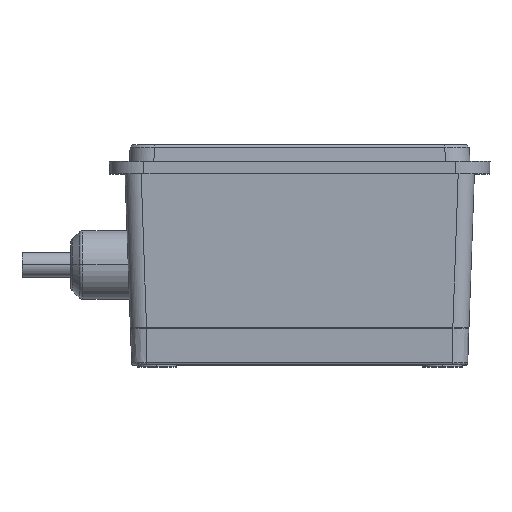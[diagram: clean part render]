
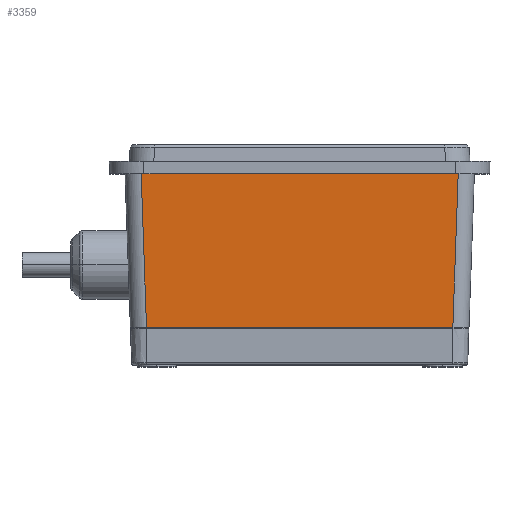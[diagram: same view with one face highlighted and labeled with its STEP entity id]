
A CAD part, top view. The second image highlights one B-rep face of the part: STEP entity #3359.
In plain terms, the highlighted planar face has unit normal (0, -0.035, 0.999).
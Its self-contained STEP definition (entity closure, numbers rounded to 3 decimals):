
#43 = DIRECTION ( 'NONE',  ( -0.035, 0.999, 0.035 ) ) ;
#743 = CARTESIAN_POINT ( 'NONE',  ( -31.305, 7.7, 29.653 ) ) ;
#1165 = LINE ( 'NONE', #3656, #3683 ) ;
#1256 = LINE ( 'NONE', #5735, #2442 ) ;
#1543 = FACE_OUTER_BOUND ( 'NONE', #3301, .T. ) ;
#1564 = EDGE_CURVE ( 'NONE', #2951, #4777, #1944, .T. ) ;
#1577 = AXIS2_PLACEMENT_3D ( 'NONE', #3342, #5836, #3388 ) ;
#1720 = LINE ( 'NONE', #6311, #6107 ) ;
#1924 = ORIENTED_EDGE ( 'NONE', *, *, #4416, .F. ) ;
#1944 = LINE ( 'NONE', #2703, #5532 ) ;
#2254 = EDGE_CURVE ( 'NONE', #6025, #5703, #1165, .T. ) ;
#2442 = VECTOR ( 'NONE', #6465, 1000. ) ;
#2501 = CARTESIAN_POINT ( 'NONE',  ( 32.402, 39.1, 30.75 ) ) ;
#2703 = CARTESIAN_POINT ( 'NONE',  ( 31.305, 7.7, 29.653 ) ) ;
#2951 = VERTEX_POINT ( 'NONE', #5540 ) ;
#3301 = EDGE_LOOP ( 'NONE', ( #4409, #1924, #4175, #4517 ) ) ;
#3342 = CARTESIAN_POINT ( 'NONE',  ( -38.292, 39.1, 30.75 ) ) ;
#3359 = ADVANCED_FACE ( 'NONE', ( #1543 ), #3832, .T. ) ;
#3388 = DIRECTION ( 'NONE',  ( 0., -0.999, -0.035 ) ) ;
#3656 = CARTESIAN_POINT ( 'NONE',  ( -34.402, 96.378, 32.75 ) ) ;
#3683 = VECTOR ( 'NONE', #43, 1000. ) ;
#3832 = PLANE ( 'NONE',  #1577 ) ;
#4175 = ORIENTED_EDGE ( 'NONE', *, *, #1564, .T. ) ;
#4409 = ORIENTED_EDGE ( 'NONE', *, *, #2254, .F. ) ;
#4416 = EDGE_CURVE ( 'NONE', #2951, #6025, #1256, .T. ) ;
#4517 = ORIENTED_EDGE ( 'NONE', *, *, #5347, .T. ) ;
#4777 = VERTEX_POINT ( 'NONE', #2501 ) ;
#5191 = CARTESIAN_POINT ( 'NONE',  ( -32.402, 39.1, 30.75 ) ) ;
#5241 = DIRECTION ( 'NONE',  ( 0.035, 0.999, 0.035 ) ) ;
#5347 = EDGE_CURVE ( 'NONE', #4777, #5703, #1720, .T. ) ;
#5532 = VECTOR ( 'NONE', #5241, 1000. ) ;
#5540 = CARTESIAN_POINT ( 'NONE',  ( 31.305, 7.7, 29.653 ) ) ;
#5703 = VERTEX_POINT ( 'NONE', #5191 ) ;
#5735 = CARTESIAN_POINT ( 'NONE',  ( 33.274, 7.7, 29.653 ) ) ;
#5836 = DIRECTION ( 'NONE',  ( 0., -0.035, 0.999 ) ) ;
#6025 = VERTEX_POINT ( 'NONE', #743 ) ;
#6107 = VECTOR ( 'NONE', #6353, 1000. ) ;
#6311 = CARTESIAN_POINT ( 'NONE',  ( 0., 39.1, 30.75 ) ) ;
#6353 = DIRECTION ( 'NONE',  ( -1., 0., 0. ) ) ;
#6465 = DIRECTION ( 'NONE',  ( -1., 0., 0. ) ) ;
